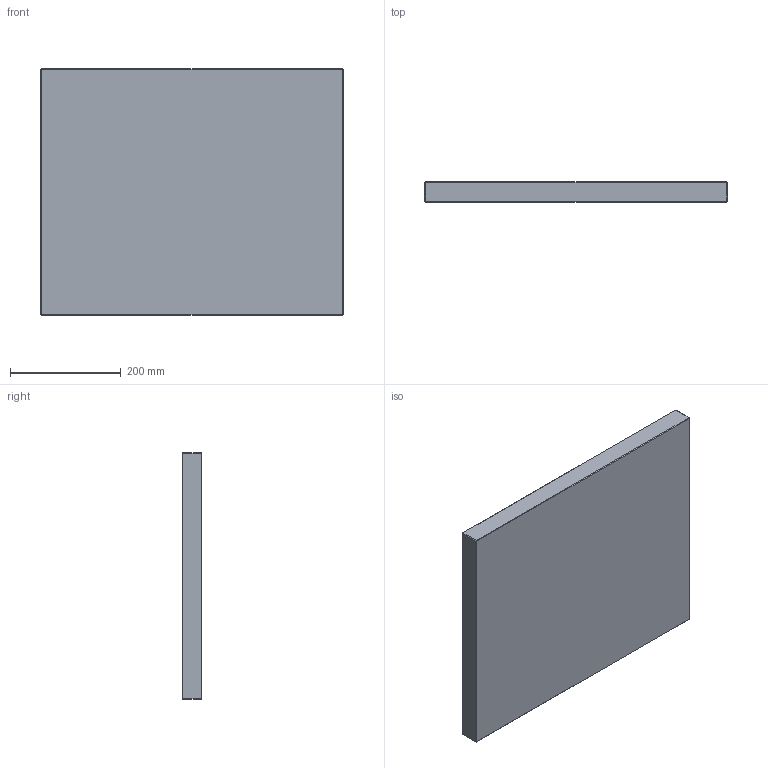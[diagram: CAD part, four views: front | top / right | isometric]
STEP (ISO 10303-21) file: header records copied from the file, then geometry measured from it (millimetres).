
FILE_DESCRIPTION (( 'STEP AP214' ), '1' );
FILE_NAME ('PBA-P-446x446x36.STEP', '2020-03-11T15:57:12', ( 'August' ), ( '' ), 'SwSTEP 2.0', 'SolidWorks 2018', '' );
FILE_SCHEMA (( 'AUTOMOTIVE_DESIGN' ));
Length unit declared in the file: millimetre
Products named in the file (1): PBA-P-446x446x36
Bounding box: 546 x 36 x 446 mm (x, y, z)
Volume: 8764525.3 mm3; surface area: 556044.2 mm2
Topology: 1 solids, 1 shells, 26 faces, 48 edges, 24 vertices
Faces by surface type: plane 26
Entity records: 634 total; most frequent: DIRECTION 102, CARTESIAN_POINT 99, ORIENTED_EDGE 96, EDGE_CURVE 48, VECTOR 48, LINE 48, AXIS2_PLACEMENT_3D 27, ADVANCED_FACE 26
